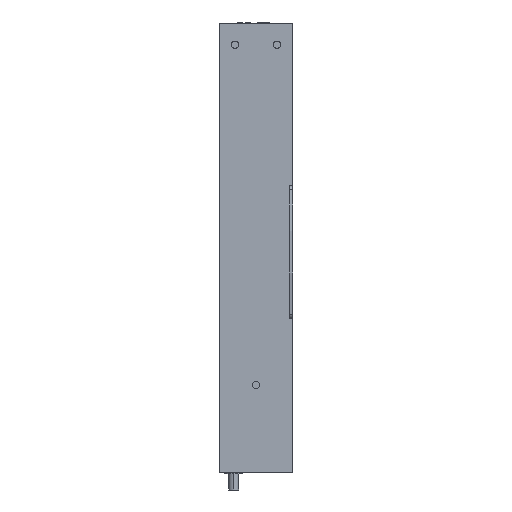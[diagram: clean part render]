
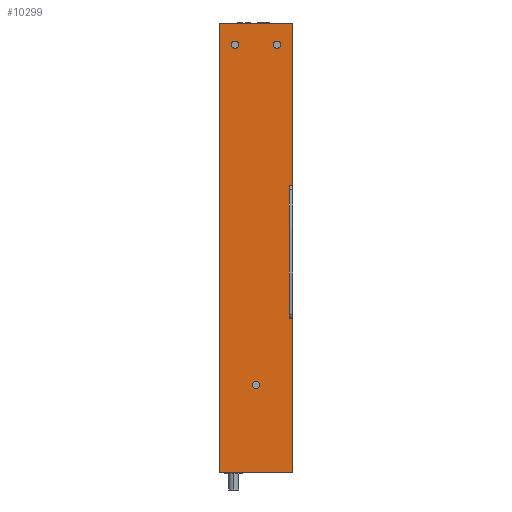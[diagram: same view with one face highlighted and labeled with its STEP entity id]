
A CAD part, left-side view. The second image highlights one B-rep face of the part: STEP entity #10299.
In plain terms, the highlighted planar face has unit normal (-1, 0, 0).
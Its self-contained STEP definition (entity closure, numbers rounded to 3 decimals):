
#178 = ORIENTED_EDGE ( 'NONE', *, *, #8093, .T. ) ;
#464 = DIRECTION ( 'NONE',  ( 1., 0., 0. ) ) ;
#466 = VERTEX_POINT ( 'NONE', #20621 ) ;
#1366 = EDGE_CURVE ( 'NONE', #466, #2238, #14662, .T. ) ;
#1640 = CARTESIAN_POINT ( 'NONE',  ( -110.07, -12.5, 118.625 ) ) ;
#1642 = DIRECTION ( 'NONE',  ( 0., 0., -1. ) ) ;
#1748 = EDGE_CURVE ( 'NONE', #7648, #1911, #8607, .T. ) ;
#1779 = ORIENTED_EDGE ( 'NONE', *, *, #24823, .T. ) ;
#1856 = CIRCLE ( 'NONE', #17939, 2.17 ) ;
#1874 = DIRECTION ( 'NONE',  ( 1., 0., 0. ) ) ;
#1911 = VERTEX_POINT ( 'NONE', #27288 ) ;
#1999 = LINE ( 'NONE', #8507, #13556 ) ;
#2238 = VERTEX_POINT ( 'NONE', #9692 ) ;
#2416 = EDGE_LOOP ( 'NONE', ( #16344, #9244 ) ) ;
#2422 = CARTESIAN_POINT ( 'NONE',  ( -110.07, 0., -81.205 ) ) ;
#2869 = LINE ( 'NONE', #4888, #7472 ) ;
#3021 = EDGE_CURVE ( 'NONE', #25857, #28374, #20990, .T. ) ;
#3177 = CIRCLE ( 'NONE', #12871, 2.17 ) ;
#3415 = AXIS2_PLACEMENT_3D ( 'NONE', #13150, #4491, #26677 ) ;
#3589 = EDGE_CURVE ( 'NONE', #466, #21386, #23364, .T. ) ;
#4260 = CARTESIAN_POINT ( 'NONE',  ( -110.07, 21.8, 133.295 ) ) ;
#4491 = DIRECTION ( 'NONE',  ( 1., 0., 0. ) ) ;
#4658 = EDGE_CURVE ( 'NONE', #20219, #23667, #15607, .T. ) ;
#4888 = CARTESIAN_POINT ( 'NONE',  ( -110.07, 21.8, 133.295 ) ) ;
#5015 = CARTESIAN_POINT ( 'NONE',  ( -110.07, -21.8, 133.295 ) ) ;
#5020 = CARTESIAN_POINT ( 'NONE',  ( -110.07, 12.5, 122.965 ) ) ;
#5438 = CARTESIAN_POINT ( 'NONE',  ( -110.07, 0., -81.205 ) ) ;
#5533 = AXIS2_PLACEMENT_3D ( 'NONE', #12051, #7443, #23145 ) ;
#5747 = CARTESIAN_POINT ( 'NONE',  ( -110.07, 0., -79.035 ) ) ;
#5784 = EDGE_CURVE ( 'NONE', #28374, #25857, #3177, .T. ) ;
#6148 = CARTESIAN_POINT ( 'NONE',  ( -110.07, 12.5, 118.625 ) ) ;
#6211 = CARTESIAN_POINT ( 'NONE',  ( -110.07, 21.8, 37. ) ) ;
#6481 = ORIENTED_EDGE ( 'NONE', *, *, #1748, .F. ) ;
#6548 = ORIENTED_EDGE ( 'NONE', *, *, #25339, .F. ) ;
#6845 = LINE ( 'NONE', #28202, #16144 ) ;
#7087 = DIRECTION ( 'NONE',  ( 1., 0., 0. ) ) ;
#7214 = VECTOR ( 'NONE', #10553, 1000. ) ;
#7443 = DIRECTION ( 'NONE',  ( 1., 0., 0. ) ) ;
#7472 = VECTOR ( 'NONE', #9374, 1000. ) ;
#7648 = VERTEX_POINT ( 'NONE', #22783 ) ;
#7716 = ORIENTED_EDGE ( 'NONE', *, *, #25654, .T. ) ;
#8093 = EDGE_CURVE ( 'NONE', #7648, #27864, #2869, .T. ) ;
#8337 = DIRECTION ( 'NONE',  ( 0., 0., -1. ) ) ;
#8480 = DIRECTION ( 'NONE',  ( 0., -1., 0. ) ) ;
#8507 = CARTESIAN_POINT ( 'NONE',  ( -110.07, 21.8, -41.6 ) ) ;
#8607 = LINE ( 'NONE', #4260, #20001 ) ;
#8918 = CARTESIAN_POINT ( 'NONE',  ( -110.07, 12.5, 120.795 ) ) ;
#9110 = CARTESIAN_POINT ( 'NONE',  ( -110.07, 12.5, 120.795 ) ) ;
#9244 = ORIENTED_EDGE ( 'NONE', *, *, #3021, .T. ) ;
#9256 = DIRECTION ( 'NONE',  ( 0., 0., -1. ) ) ;
#9374 = DIRECTION ( 'NONE',  ( 0., 0., -1. ) ) ;
#9692 = CARTESIAN_POINT ( 'NONE',  ( -110.07, -19.8, -41.6 ) ) ;
#9833 = CARTESIAN_POINT ( 'NONE',  ( -110.07, -21.8, -133.295 ) ) ;
#10198 = ORIENTED_EDGE ( 'NONE', *, *, #3589, .T. ) ;
#10202 = VERTEX_POINT ( 'NONE', #1640 ) ;
#10299 = ADVANCED_FACE ( 'NONE', ( #26405, #13561, #13285, #18156 ), #17878, .F. ) ;
#10334 = DIRECTION ( 'NONE',  ( 0., 0., -1. ) ) ;
#10553 = DIRECTION ( 'NONE',  ( 0., -1., 0. ) ) ;
#10622 = CARTESIAN_POINT ( 'NONE',  ( -110.07, -21.8, -41.6 ) ) ;
#10802 = DIRECTION ( 'NONE',  ( 0., 0., -1. ) ) ;
#10885 = AXIS2_PLACEMENT_3D ( 'NONE', #5438, #22578, #18243 ) ;
#12051 = CARTESIAN_POINT ( 'NONE',  ( -110.07, -12.5, 120.795 ) ) ;
#12818 = ORIENTED_EDGE ( 'NONE', *, *, #4658, .T. ) ;
#12871 = AXIS2_PLACEMENT_3D ( 'NONE', #2422, #1874, #19572 ) ;
#13150 = CARTESIAN_POINT ( 'NONE',  ( -110.07, 21.8, 133.295 ) ) ;
#13285 = FACE_BOUND ( 'NONE', #14296, .T. ) ;
#13430 = DIRECTION ( 'NONE',  ( 0., 0., -1. ) ) ;
#13496 = EDGE_CURVE ( 'NONE', #24993, #2238, #1999, .T. ) ;
#13556 = VECTOR ( 'NONE', #17271, 1000. ) ;
#13561 = FACE_BOUND ( 'NONE', #25059, .T. ) ;
#13855 = EDGE_LOOP ( 'NONE', ( #18396, #15843, #26117, #10198, #6548, #6481, #178, #15185 ) ) ;
#14296 = EDGE_LOOP ( 'NONE', ( #1779, #27149 ) ) ;
#14615 = LINE ( 'NONE', #14753, #16107 ) ;
#14662 = LINE ( 'NONE', #14941, #18621 ) ;
#14753 = CARTESIAN_POINT ( 'NONE',  ( -110.07, -21.8, 133.295 ) ) ;
#14941 = CARTESIAN_POINT ( 'NONE',  ( -110.07, -19.8, 133.295 ) ) ;
#15185 = ORIENTED_EDGE ( 'NONE', *, *, #20446, .T. ) ;
#15587 = CARTESIAN_POINT ( 'NONE',  ( -110.07, -12.5, 120.795 ) ) ;
#15607 = CIRCLE ( 'NONE', #24826, 2.17 ) ;
#15843 = ORIENTED_EDGE ( 'NONE', *, *, #13496, .T. ) ;
#16107 = VECTOR ( 'NONE', #1642, 1000. ) ;
#16144 = VECTOR ( 'NONE', #8480, 1000. ) ;
#16344 = ORIENTED_EDGE ( 'NONE', *, *, #5784, .T. ) ;
#16817 = VERTEX_POINT ( 'NONE', #9833 ) ;
#16934 = CARTESIAN_POINT ( 'NONE',  ( -110.07, -21.8, 37. ) ) ;
#17271 = DIRECTION ( 'NONE',  ( 0., 1., 0. ) ) ;
#17293 = EDGE_CURVE ( 'NONE', #24993, #16817, #24902, .T. ) ;
#17878 = PLANE ( 'NONE',  #3415 ) ;
#17939 = AXIS2_PLACEMENT_3D ( 'NONE', #15587, #7087, #13430 ) ;
#17950 = EDGE_CURVE ( 'NONE', #10202, #20304, #1856, .T. ) ;
#18156 = FACE_BOUND ( 'NONE', #2416, .T. ) ;
#18243 = DIRECTION ( 'NONE',  ( 0., 0., -1. ) ) ;
#18396 = ORIENTED_EDGE ( 'NONE', *, *, #17293, .F. ) ;
#18621 = VECTOR ( 'NONE', #8337, 1000. ) ;
#19572 = DIRECTION ( 'NONE',  ( 0., 0., -1. ) ) ;
#20001 = VECTOR ( 'NONE', #26571, 1000. ) ;
#20219 = VERTEX_POINT ( 'NONE', #6148 ) ;
#20243 = CARTESIAN_POINT ( 'NONE',  ( -110.07, 0., -83.375 ) ) ;
#20304 = VERTEX_POINT ( 'NONE', #23441 ) ;
#20446 = EDGE_CURVE ( 'NONE', #27864, #16817, #6845, .T. ) ;
#20621 = CARTESIAN_POINT ( 'NONE',  ( -110.07, -19.8, 37. ) ) ;
#20990 = CIRCLE ( 'NONE', #10885, 2.17 ) ;
#21035 = CARTESIAN_POINT ( 'NONE',  ( -110.07, 21.8, -133.295 ) ) ;
#21386 = VERTEX_POINT ( 'NONE', #16934 ) ;
#22565 = AXIS2_PLACEMENT_3D ( 'NONE', #9110, #464, #9256 ) ;
#22578 = DIRECTION ( 'NONE',  ( 1., 0., 0. ) ) ;
#22783 = CARTESIAN_POINT ( 'NONE',  ( -110.07, 21.8, 133.295 ) ) ;
#23016 = CIRCLE ( 'NONE', #5533, 2.17 ) ;
#23145 = DIRECTION ( 'NONE',  ( 0., 0., -1. ) ) ;
#23364 = LINE ( 'NONE', #6211, #7214 ) ;
#23428 = VECTOR ( 'NONE', #10334, 1000. ) ;
#23441 = CARTESIAN_POINT ( 'NONE',  ( -110.07, -12.5, 122.965 ) ) ;
#23667 = VERTEX_POINT ( 'NONE', #5020 ) ;
#23990 = CIRCLE ( 'NONE', #22565, 2.17 ) ;
#24823 = EDGE_CURVE ( 'NONE', #20304, #10202, #23016, .T. ) ;
#24826 = AXIS2_PLACEMENT_3D ( 'NONE', #8918, #26477, #10802 ) ;
#24902 = LINE ( 'NONE', #5015, #23428 ) ;
#24993 = VERTEX_POINT ( 'NONE', #10622 ) ;
#25059 = EDGE_LOOP ( 'NONE', ( #7716, #12818 ) ) ;
#25339 = EDGE_CURVE ( 'NONE', #1911, #21386, #14615, .T. ) ;
#25654 = EDGE_CURVE ( 'NONE', #23667, #20219, #23990, .T. ) ;
#25857 = VERTEX_POINT ( 'NONE', #20243 ) ;
#26117 = ORIENTED_EDGE ( 'NONE', *, *, #1366, .F. ) ;
#26405 = FACE_OUTER_BOUND ( 'NONE', #13855, .T. ) ;
#26477 = DIRECTION ( 'NONE',  ( 1., 0., 0. ) ) ;
#26571 = DIRECTION ( 'NONE',  ( 0., -1., 0. ) ) ;
#26677 = DIRECTION ( 'NONE',  ( 0., 0., -1. ) ) ;
#27149 = ORIENTED_EDGE ( 'NONE', *, *, #17950, .T. ) ;
#27288 = CARTESIAN_POINT ( 'NONE',  ( -110.07, -21.8, 133.295 ) ) ;
#27864 = VERTEX_POINT ( 'NONE', #21035 ) ;
#28202 = CARTESIAN_POINT ( 'NONE',  ( -110.07, 21.8, -133.295 ) ) ;
#28374 = VERTEX_POINT ( 'NONE', #5747 ) ;
